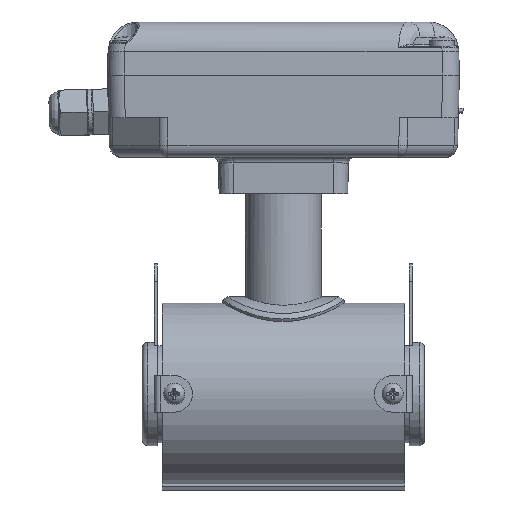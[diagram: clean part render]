
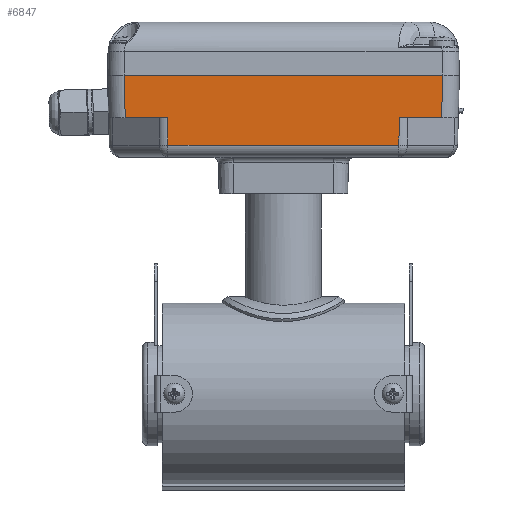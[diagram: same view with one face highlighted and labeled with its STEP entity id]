
A CAD part, top view. The second image highlights one B-rep face of the part: STEP entity #6847.
In plain terms, the highlighted planar face has unit normal (0, -0.026, 1).
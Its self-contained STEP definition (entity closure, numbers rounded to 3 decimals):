
#6847=ADVANCED_FACE('',(#23360),#23362,.T.);
#23360=FACE_BOUND('',#23361,.T.);
#23361=EDGE_LOOP('',(#37387,#37388,#37389,#37390,#37391,#37392,#37393,#37394));
#23362=PLANE('',#23363);
#23363=AXIS2_PLACEMENT_3D('',#23364,#23365,#23366);
#23364=CARTESIAN_POINT('',(-58.,103.072,45.));
#23365=DIRECTION('',(0.,-0.026,1.));
#23366=DIRECTION('',(-1.,0.,0.));
#37387=ORIENTED_EDGE('',*,*,#41797,.T.);
#37388=ORIENTED_EDGE('',*,*,#41246,.F.);
#37389=ORIENTED_EDGE('',*,*,#41806,.F.);
#37390=ORIENTED_EDGE('',*,*,#41112,.F.);
#37391=ORIENTED_EDGE('',*,*,#41075,.F.);
#37392=ORIENTED_EDGE('',*,*,#41131,.F.);
#37393=ORIENTED_EDGE('',*,*,#41807,.F.);
#37394=ORIENTED_EDGE('',*,*,#41256,.F.);
#41075=EDGE_CURVE('',#44506,#44507,#44508,.T.);
#41112=EDGE_CURVE('',#44507,#44569,#44570,.T.);
#41131=EDGE_CURVE('',#44598,#44506,#44599,.T.);
#41246=EDGE_CURVE('',#44820,#44821,#44822,.T.);
#41256=EDGE_CURVE('',#44839,#44841,#44842,.T.);
#41797=EDGE_CURVE('',#44839,#44821,#45703,.T.);
#41806=EDGE_CURVE('',#44569,#44820,#45712,.T.);
#41807=EDGE_CURVE('',#44841,#44598,#45713,.T.);
#44506=VERTEX_POINT('',#56073);
#44507=VERTEX_POINT('',#56074);
#44508=LINE('',#56075,#56076);
#44569=VERTEX_POINT('',#56229);
#44570=LINE('',#56230,#56231);
#44598=VERTEX_POINT('',#56305);
#44599=LINE('',#56306,#56307);
#44820=VERTEX_POINT('',#59065);
#44821=VERTEX_POINT('',#59066);
#44822=LINE('',#59067,#59068);
#44839=VERTEX_POINT('',#59106);
#44841=VERTEX_POINT('',#59111);
#44842=LINE('',#59112,#59113);
#45703=LINE('',#81308,#81309);
#45712=LINE('',#81335,#81336);
#45713=LINE('',#81338,#81339);
#56073=CARTESIAN_POINT('',(38.067,79.967,44.395));
#56074=CARTESIAN_POINT('',(-38.067,79.967,44.395));
#56075=CARTESIAN_POINT('',(38.067,79.967,44.395));
#56076=VECTOR('',#56077,1.);
#56077=DIRECTION('',(-1.,0.,0.));
#56229=CARTESIAN_POINT('',(-38.166,89.072,44.633));
#56230=CARTESIAN_POINT('',(-38.067,79.967,44.395));
#56231=VECTOR('',#56232,1.);
#56232=DIRECTION('',(-0.011,1.,0.026));
#56305=CARTESIAN_POINT('',(38.166,89.072,44.633));
#56306=CARTESIAN_POINT('',(38.166,89.072,44.633));
#56307=VECTOR('',#56308,1.);
#56308=DIRECTION('',(-0.011,-1.,-0.026));
#59065=CARTESIAN_POINT('',(-52.135,89.072,44.633));
#59066=CARTESIAN_POINT('',(-52.502,103.072,45.));
#59067=CARTESIAN_POINT('',(-52.135,89.072,44.633));
#59068=VECTOR('',#59069,1.);
#59069=DIRECTION('',(-0.026,0.999,0.026));
#59106=CARTESIAN_POINT('',(52.502,103.072,45.));
#59111=CARTESIAN_POINT('',(52.135,89.072,44.633));
#59112=CARTESIAN_POINT('',(52.502,103.072,45.));
#59113=VECTOR('',#59114,1.);
#59114=DIRECTION('',(-0.026,-0.999,-0.026));
#81308=CARTESIAN_POINT('',(52.502,103.072,45.));
#81309=VECTOR('',#81310,1.);
#81310=DIRECTION('',(-1.,0.,0.));
#81335=CARTESIAN_POINT('',(-38.166,89.072,44.633));
#81336=VECTOR('',#81337,1.);
#81337=DIRECTION('',(-1.,0.,0.));
#81338=CARTESIAN_POINT('',(52.135,89.072,44.633));
#81339=VECTOR('',#81340,1.);
#81340=DIRECTION('',(-1.,0.,0.));
